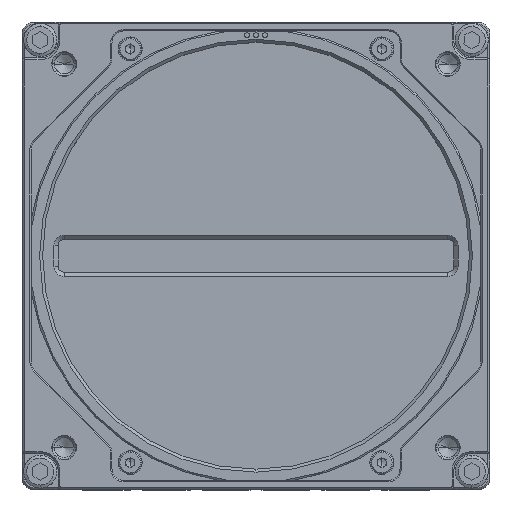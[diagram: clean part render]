
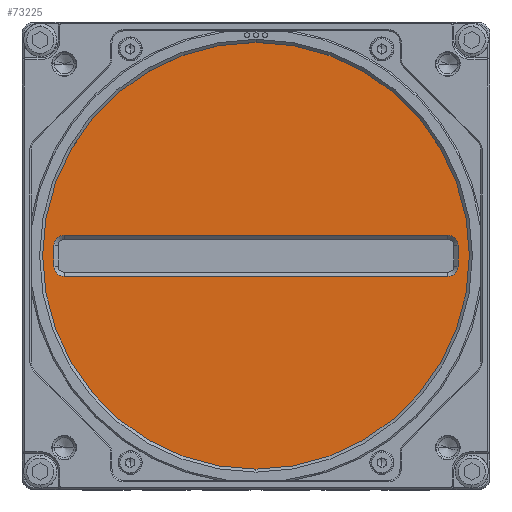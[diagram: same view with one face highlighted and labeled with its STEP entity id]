
A CAD part, top view. The second image highlights one B-rep face of the part: STEP entity #73225.
In plain terms, the highlighted planar face has unit normal (0, 0, 1).
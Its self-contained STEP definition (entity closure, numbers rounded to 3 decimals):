
#21642=CARTESIAN_POINT('',(0.,0.,39.43));
#21643=DIRECTION('',(0.,0.,-1.));
#21644=DIRECTION('',(0.,-1.,0.));
#21645=AXIS2_PLACEMENT_3D('',#21642,#21643,#21644);
#21647=CARTESIAN_POINT('',(0.,0.,39.43));
#21648=DIRECTION('',(0.,0.,-1.));
#21649=DIRECTION('',(0.,1.,0.));
#21650=AXIS2_PLACEMENT_3D('',#21647,#21648,#21649);
#21652=CARTESIAN_POINT('',(32.,-1.75,39.43));
#21653=DIRECTION('',(0.,0.,1.));
#21654=DIRECTION('',(0.,-1.,0.));
#21655=AXIS2_PLACEMENT_3D('',#21652,#21653,#21654);
#21657=CARTESIAN_POINT('',(32.,1.75,39.43));
#21658=DIRECTION('',(0.,0.,1.));
#21659=DIRECTION('',(1.,0.,0.));
#21660=AXIS2_PLACEMENT_3D('',#21657,#21658,#21659);
#21662=CARTESIAN_POINT('',(-32.,1.75,39.43));
#21663=DIRECTION('',(0.,0.,1.));
#21664=DIRECTION('',(0.,1.,0.));
#21665=AXIS2_PLACEMENT_3D('',#21662,#21663,#21664);
#21667=CARTESIAN_POINT('',(-32.,-1.75,39.43));
#21668=DIRECTION('',(0.,0.,1.));
#21669=DIRECTION('',(-1.,0.,0.));
#21670=AXIS2_PLACEMENT_3D('',#21667,#21668,#21669);
#21685=DIRECTION('',(-1.,0.,0.));
#21686=VECTOR('',#21685,64.);
#21687=CARTESIAN_POINT('',(32.,-3.45,
39.43));
#21688=LINE('',#21687,#21686);
#21706=DIRECTION('',(0.,1.,0.));
#21707=VECTOR('',#21706,3.5);
#21708=CARTESIAN_POINT('',(-33.7,-1.75,
39.43));
#21709=LINE('',#21708,#21707);
#21727=DIRECTION('',(1.,0.,0.));
#21728=VECTOR('',#21727,64.);
#21729=CARTESIAN_POINT('',(-32.,3.45,
39.43));
#21730=LINE('',#21729,#21728);
#21748=DIRECTION('',(0.,-1.,0.));
#21749=VECTOR('',#21748,3.5);
#21750=CARTESIAN_POINT('',(33.7,1.75,39.43));
#21751=LINE('',#21750,#21749);
#44488=CARTESIAN_POINT('',(0.,36.35,39.43));
#44489=VERTEX_POINT('',#44488);
#44490=CARTESIAN_POINT('',(0.,-36.35,39.43));
#44491=VERTEX_POINT('',#44490);
#44492=CARTESIAN_POINT('',(32.,-3.45,
39.43));
#44493=CARTESIAN_POINT('',(33.7,-1.75,
39.43));
#44494=VERTEX_POINT('',#44492);
#44495=VERTEX_POINT('',#44493);
#44496=CARTESIAN_POINT('',(33.7,1.75,39.43));
#44497=VERTEX_POINT('',#44496);
#44498=CARTESIAN_POINT('',(32.,3.45,39.43));
#44499=VERTEX_POINT('',#44498);
#44500=CARTESIAN_POINT('',(-32.,3.45,
39.43));
#44501=VERTEX_POINT('',#44500);
#44502=CARTESIAN_POINT('',(-33.7,1.75,
39.43));
#44503=VERTEX_POINT('',#44502);
#44504=CARTESIAN_POINT('',(-33.7,-1.75,
39.43));
#44505=VERTEX_POINT('',#44504);
#44506=CARTESIAN_POINT('',(-32.,-3.45,
39.43));
#44507=VERTEX_POINT('',#44506);
#73198=CARTESIAN_POINT('',(0.,0.,39.43));
#73199=DIRECTION('',(0.,0.,1.));
#73200=DIRECTION('',(0.,-1.,0.));
#73201=AXIS2_PLACEMENT_3D('',#73198,#73199,#73200);
#73202=PLANE('',#73201);
#73203=ORIENTED_EDGE('',*,*,#73184,.T.);
#73204=ORIENTED_EDGE('',*,*,#73166,.T.);
#73205=EDGE_LOOP('',(#73203,#73204));
#73206=FACE_OUTER_BOUND('',#73205,.F.);
#73208=ORIENTED_EDGE('',*,*,#73207,.T.);
#73210=ORIENTED_EDGE('',*,*,#73209,.F.);
#73212=ORIENTED_EDGE('',*,*,#73211,.T.);
#73214=ORIENTED_EDGE('',*,*,#73213,.F.);
#73216=ORIENTED_EDGE('',*,*,#73215,.T.);
#73218=ORIENTED_EDGE('',*,*,#73217,.F.);
#73220=ORIENTED_EDGE('',*,*,#73219,.T.);
#73222=ORIENTED_EDGE('',*,*,#73221,.F.);
#73223=EDGE_LOOP('',(#73208,#73210,#73212,#73214,#73216,#73218,#73220,#73222));
#73224=FACE_BOUND('',#73223,.F.);
#21646=CIRCLE('',#21645,36.35);
#21651=CIRCLE('',#21650,36.35);
#21656=CIRCLE('',#21655,1.7);
#21661=CIRCLE('',#21660,1.7);
#21666=CIRCLE('',#21665,1.7);
#21671=CIRCLE('',#21670,1.7);
#73166=EDGE_CURVE('',#44489,#44491,#21651,.T.);
#73184=EDGE_CURVE('',#44491,#44489,#21646,.T.);
#73207=EDGE_CURVE('',#44494,#44495,#21656,.T.);
#73209=EDGE_CURVE('',#44497,#44495,#21751,.T.);
#73211=EDGE_CURVE('',#44497,#44499,#21661,.T.);
#73213=EDGE_CURVE('',#44501,#44499,#21730,.T.);
#73215=EDGE_CURVE('',#44501,#44503,#21666,.T.);
#73217=EDGE_CURVE('',#44505,#44503,#21709,.T.);
#73219=EDGE_CURVE('',#44505,#44507,#21671,.T.);
#73221=EDGE_CURVE('',#44494,#44507,#21688,.T.);
#73225=ADVANCED_FACE('',(#73206,#73224),#73202,.T.);
